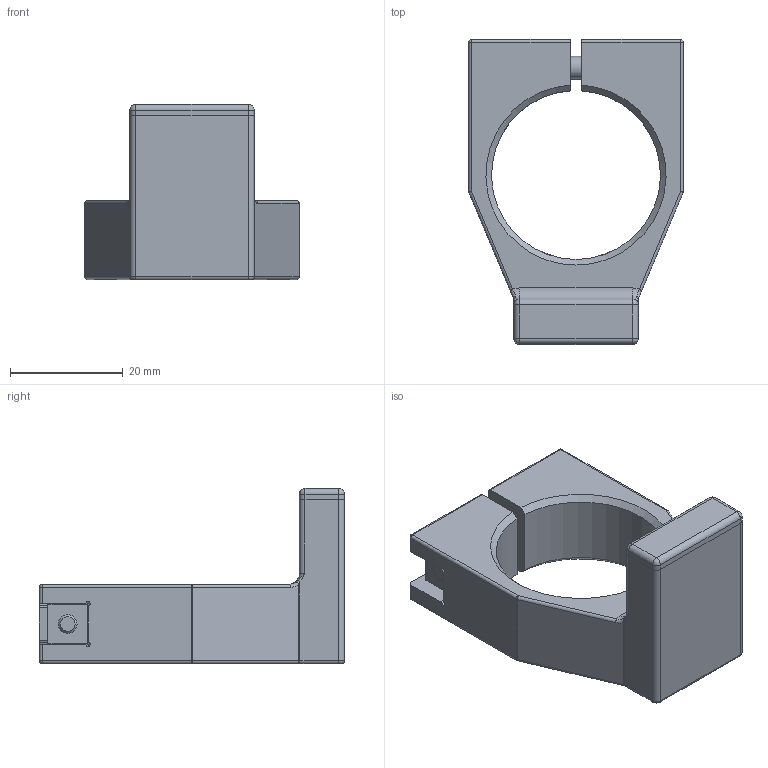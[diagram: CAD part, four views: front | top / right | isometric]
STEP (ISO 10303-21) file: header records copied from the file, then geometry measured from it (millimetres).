
FILE_DESCRIPTION (( 'STEP AP214' ), '1' );
FILE_NAME ('2975.STEP', '2024-10-04T19:41:10', ( '' ), ( '' ), 'SwSTEP 2.0', 'SolidWorks 2022', '' );
FILE_SCHEMA (( 'AUTOMOTIVE_DESIGN' ));
Length unit declared in the file: millimetre
Products named in the file (1): 2975
Bounding box: 38 x 54 x 31 mm (x, y, z)
Volume: 17114.9 mm3; surface area: 8712.5 mm2
Topology: 5 solids, 5 shells, 260 faces, 616 edges, 384 vertices
Faces by surface type: bspline 88, cylinder 81, plane 60, sphere 12, torus 10, cone 9
Full cylindrical faces by diameter (mm): 3 x3, 3.3 x1, 3.6 x3, 4 x1, 4.1 x3, 4.3 x1, 4.5 x2, 7 x2, 8 x1
Entity records: 17097 total; most frequent: CARTESIAN_POINT 11945, ORIENTED_EDGE 1148, DIRECTION 772, EDGE_CURVE 574, VERTEX_POINT 380, EDGE_LOOP 324, AXIS2_PLACEMENT_3D 315, FACE_OUTER_BOUND 281
